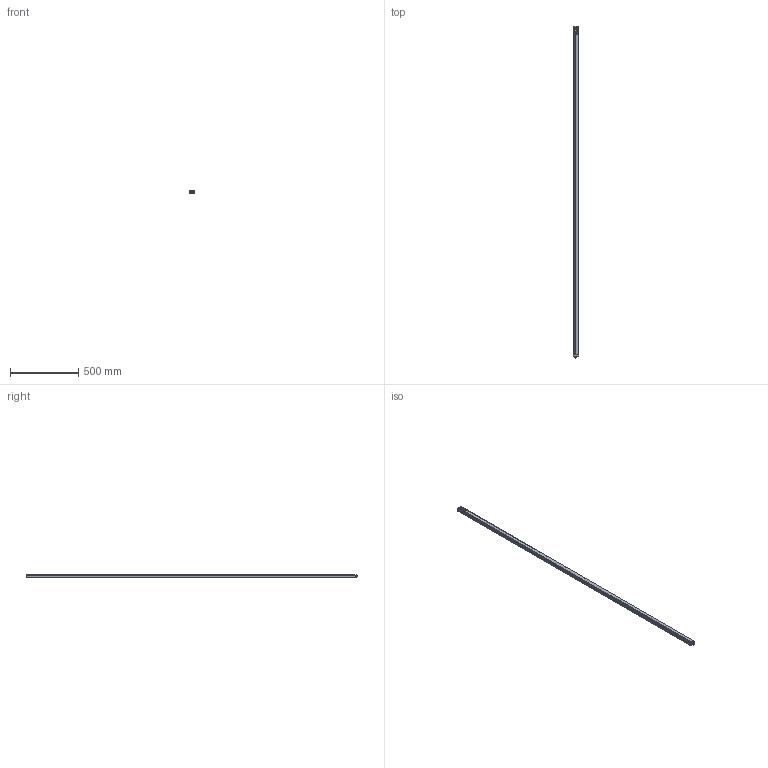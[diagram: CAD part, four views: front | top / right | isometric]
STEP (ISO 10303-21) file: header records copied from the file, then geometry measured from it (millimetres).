
FILE_DESCRIPTION(/* description */ (''),/* implementation_level */ '2;1');
FILE_NAME(/* name */ 'C:\Users\andre\SynologyDrive\Optoscan\Libreria Componenti\00 - Barriere\Barriera sorgente\Argo_2400_TX.stp',/* time_stamp */ '2021-04-22T10:32:29+02:00',/* author */ ('andre'),/* organization */ (''),/* preprocessor_version */ 'ST-DEVELOPER v18',/* originating_system */ 'Autodesk Inventor 2020',/* authorisation */ '');
FILE_SCHEMA (('AUTOMOTIVE_DESIGN { 1 0 10303 214 3 1 1 }'));
Length unit declared in the file: millimetre
Products named in the file (1): Argo_2400_TX
Bounding box: 40.5 x 2433.3 x 20.75 mm (x, y, z)
Volume: 478545.8 mm3; surface area: 631450.1 mm2
Topology: 1 solids, 1 shells, 696 faces, 1911 edges, 1225 vertices
Faces by surface type: plane 321, cylinder 195, bspline 94, torus 72, cone 8, sphere 6
Full cylindrical faces by diameter (mm): 1 x4, 2.459 x4, 2.5 x4, 3 x4, 3.5 x4, 5.5 x4, 8 x1, 10.5 x2, 11.75 x9, 15.7 x1, 17.5 x1
Entity records: 30770 total; most frequent: CARTESIAN_POINT 12670, ORIENTED_EDGE 3806, DIRECTION 3415, EDGE_CURVE 1903, VERTEX_POINT 1225, AXIS2_PLACEMENT_3D 1193, LINE 1029, VECTOR 1029
